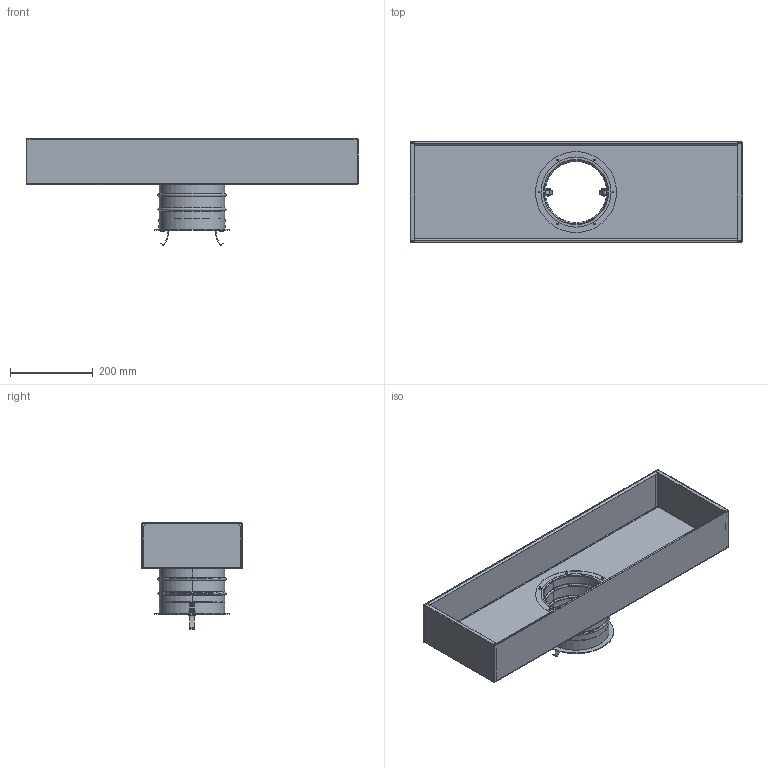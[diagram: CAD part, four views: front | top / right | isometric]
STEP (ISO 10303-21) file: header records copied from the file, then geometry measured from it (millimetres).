
FILE_DESCRIPTION((''),'2;1');
FILE_NAME('120823','2022-01-18T20:23:42',('Tomas Bellgran'),(''),'CREO PARAMETRIC BY PTC INC, 2018260','CREO PARAMETRIC BY PTC INC, 2018260','');
FILE_SCHEMA(('AUTOMOTIVE_DESIGN { 1 0 10303 214 1 1 1 1 }'));
Length unit declared in the file: millimetre
Products named in the file (19): 1006-1304; 1006-1312-002; 1006-1502-001; 128348; 101196; 120821; 112478; 1006-1312-001_AF0; 1006-1502-003_AF0; 1006-1502-002_AF0; 128347; EL1035-800_PINNE_LAANG; EL1035-800_PLATTA; EL1035-800_GREPP; EL1035-800_PINNE_KORT; EL1035-800_BYGEL; EL1035-800; 139072; 120823
Assembly tree (28 placements, depth 4):
  120823
    120821
      1006-1304
      128348
        1006-1312-002
        1006-1502-001
      101196  x6
    112478  x2
    128347
      1006-1312-001_AF0
      1006-1502-003_AF0
      1006-1502-002_AF0
    EL1035-800  x2
      EL1035-800_PINNE_LAANG
      EL1035-800_PLATTA
      EL1035-800_GREPP
      EL1035-800_PINNE_KORT
      EL1035-800_BYGEL
    139072  x4
Bounding box: 800.09 x 242.08 x 256.8 mm (x, y, z)
Volume: 558272.7 mm3; surface area: 1139007.7 mm2
Topology: 28 solids, 28 shells, 680 faces, 1591 edges, 974 vertices
Faces by surface type: cylinder 306, plane 252, torus 64, sphere 36, bspline 18, extrusion 4
Entity records: 21684 total; most frequent: CARTESIAN_POINT 4320, DIRECTION 2704, ORIENTED_EDGE 2252, EDGE_CURVE 1126, AXIS2_PLACEMENT_3D 1037, PROPERTY_DEFINITION 885, REPRESENTATION 871, PROPERTY_DEFINITION_REPRESENTATION 871
